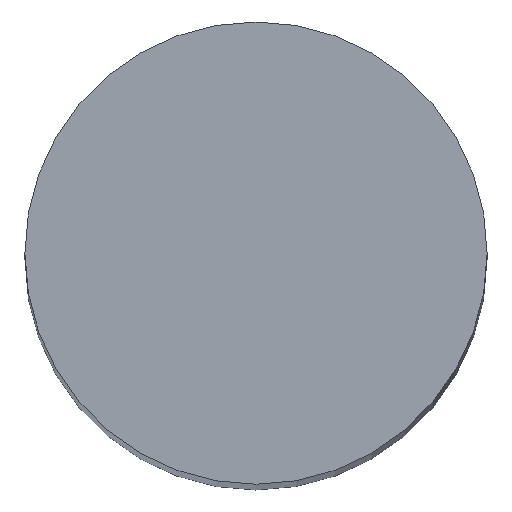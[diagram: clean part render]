
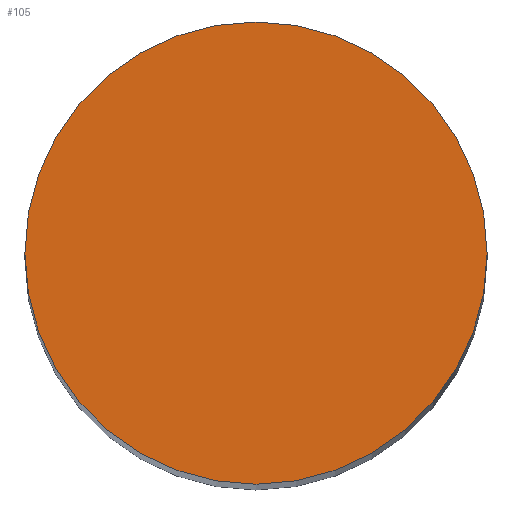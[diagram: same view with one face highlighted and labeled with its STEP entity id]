
A CAD part, top view. The second image highlights one B-rep face of the part: STEP entity #105.
In plain terms, the highlighted planar face has unit normal (0, 0, 1).
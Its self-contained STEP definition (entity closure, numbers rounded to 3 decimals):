
#21 = EDGE_CURVE('',#22,#22,#24,.T.);
#22 = VERTEX_POINT('',#23);
#23 = CARTESIAN_POINT('',(71.5,-116.913,147.));
#24 = SURFACE_CURVE('',#25,(#30,#42),.PCURVE_S1.);
#25 = CIRCLE('',#26,4.);
#26 = AXIS2_PLACEMENT_3D('',#27,#28,#29);
#27 = CARTESIAN_POINT('',(67.5,-116.913,147.));
#28 = DIRECTION('',(0.,0.,1.));
#29 = DIRECTION('',(1.,0.,-0.));
#30 = PCURVE('',#31,#36);
#31 = CYLINDRICAL_SURFACE('',#32,4.);
#32 = AXIS2_PLACEMENT_3D('',#33,#34,#35);
#33 = CARTESIAN_POINT('',(67.5,-116.913,90.));
#34 = DIRECTION('',(0.,0.,1.));
#35 = DIRECTION('',(1.,0.,-0.));
#36 = DEFINITIONAL_REPRESENTATION('',(#37),#41);
#37 = LINE('',#38,#39);
#38 = CARTESIAN_POINT('',(0.,57.));
#39 = VECTOR('',#40,1.);
#40 = DIRECTION('',(1.,0.));
#41 = ( GEOMETRIC_REPRESENTATION_CONTEXT(2) 
PARAMETRIC_REPRESENTATION_CONTEXT() REPRESENTATION_CONTEXT('2D SPACE',''
  ) );
#42 = PCURVE('',#43,#48);
#43 = PLANE('',#44);
#44 = AXIS2_PLACEMENT_3D('',#45,#46,#47);
#45 = CARTESIAN_POINT('',(67.5,-116.913,147.));
#46 = DIRECTION('',(0.,0.,1.));
#47 = DIRECTION('',(1.,0.,-0.));
#48 = DEFINITIONAL_REPRESENTATION('',(#49),#53);
#49 = CIRCLE('',#50,4.);
#50 = AXIS2_PLACEMENT_2D('',#51,#52);
#51 = CARTESIAN_POINT('',(0.,0.));
#52 = DIRECTION('',(1.,0.));
#53 = ( GEOMETRIC_REPRESENTATION_CONTEXT(2) 
PARAMETRIC_REPRESENTATION_CONTEXT() REPRESENTATION_CONTEXT('2D SPACE',''
  ) );
#105 = ADVANCED_FACE('',(#106),#43,.T.);
#106 = FACE_BOUND('',#107,.T.);
#107 = EDGE_LOOP('',(#108));
#108 = ORIENTED_EDGE('',*,*,#21,.T.);
